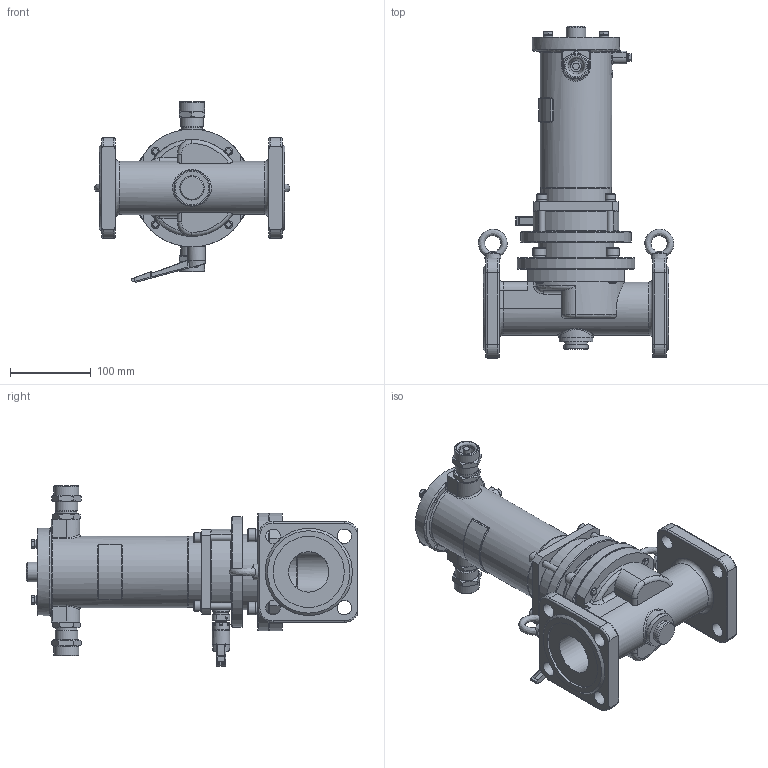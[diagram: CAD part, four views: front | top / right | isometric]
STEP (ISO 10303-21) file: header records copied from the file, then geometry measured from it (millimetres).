
FILE_DESCRIPTION(('STEP AP203'), '1');
FILE_NAME('捇迕-珅 DN50PN25-捔', '', ('UNSPECIFIED'), ('UNSPECIFIED'), 'C3D Converter', 'C3D Toolkit', '');
FILE_SCHEMA(('CONFIG_CONTROL_DESIGN'));
Length unit declared in the file: millimetre
Bounding box: 241.99 x 411 x 224 mm (x, y, z)
Volume: 2273023.6 mm3; surface area: 516560.4 mm2
Topology: 4 solids, 20 shells, 2860 faces, 7704 edges, 5004 vertices
Faces by surface type: plane 1247, cylinder 1202, cone 188, extrusion 108, torus 68, bspline 45, sphere 2
Full cylindrical faces by diameter (mm): 1 x2, 2.459 x1, 3 x1, 3.1 x1, 3.242 x1, 3.5 x2, 4 x2, 4.134 x1, 4.3 x1, 4.917 x6, 5 x2, 6 x10, 6.3 x1, 6.647 x8, 7 x1, 8 x13, 9 x9, 10 x7, 11 x5, 12 x6, 12.5 x1, 13 x6, 13.8 x1, 14 x2, 15 x1, 16 x5, 17 x1, 17.8 x1, 18 x8, 18.376 x1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
Entity records: 137141 total; most frequent: CARTESIAN_POINT 42388, DIRECTION 15057, ORIENTED_EDGE 14672, EDGE_CURVE 7336, AXIS2_PLACEMENT_3D 5618, VERTEX_POINT 5409, VECTOR 3821, LINE 3713
